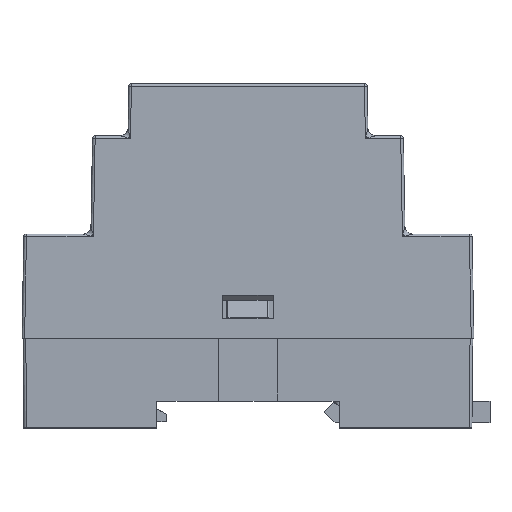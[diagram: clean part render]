
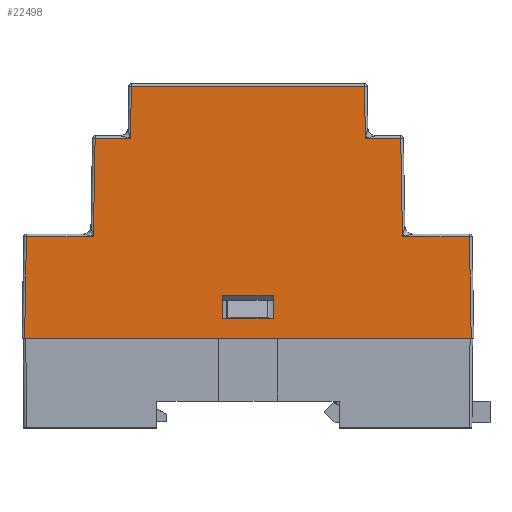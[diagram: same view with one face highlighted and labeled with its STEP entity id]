
A CAD part, top view. The second image highlights one B-rep face of the part: STEP entity #22498.
In plain terms, the highlighted planar face has unit normal (0, 0.009, 1).
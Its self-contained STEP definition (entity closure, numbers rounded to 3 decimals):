
#65 = VECTOR ( 'NONE', #22681, 1000. ) ;
#467 = CARTESIAN_POINT ( 'NONE',  ( -42.5, -0.009, 17.75 ) ) ;
#841 = CARTESIAN_POINT ( 'NONE',  ( -42.5, 0., 17.75 ) ) ;
#1006 = EDGE_CURVE ( 'NONE', #5865, #16950, #25030, .T. ) ;
#1152 = DIRECTION ( 'NONE',  ( 0., -1., 0.009 ) ) ;
#1259 = VECTOR ( 'NONE', #9467, 1000. ) ;
#1288 = LINE ( 'NONE', #5740, #65 ) ;
#1317 = CARTESIAN_POINT ( 'NONE',  ( 4.8, 8.291, 17.678 ) ) ;
#1421 = CARTESIAN_POINT ( 'NONE',  ( 29.085, 38.104, 17.417 ) ) ;
#1472 = DIRECTION ( 'NONE',  ( 0., -1., 0.009 ) ) ;
#1703 = EDGE_CURVE ( 'NONE', #25435, #16114, #9862, .T. ) ;
#1869 = ORIENTED_EDGE ( 'NONE', *, *, #9417, .T. ) ;
#2030 = CARTESIAN_POINT ( 'NONE',  ( 42.161, 19.404, 17.581 ) ) ;
#2288 = CARTESIAN_POINT ( 'NONE',  ( -4.8, 3.9, 17.716 ) ) ;
#2487 = VERTEX_POINT ( 'NONE', #1317 ) ;
#2856 = ORIENTED_EDGE ( 'NONE', *, *, #17302, .T. ) ;
#3226 = VECTOR ( 'NONE', #12596, 1000. ) ;
#3263 = ORIENTED_EDGE ( 'NONE', *, *, #7076, .T. ) ;
#3316 = LINE ( 'NONE', #18423, #6353 ) ;
#3349 = ORIENTED_EDGE ( 'NONE', *, *, #26379, .T. ) ;
#3415 = CARTESIAN_POINT ( 'NONE',  ( -43., 0., 17.75 ) ) ;
#3670 = EDGE_CURVE ( 'NONE', #16950, #25435, #15588, .T. ) ;
#3988 = DIRECTION ( 'NONE',  ( -0.017, 1., -0.009 ) ) ;
#4321 = EDGE_CURVE ( 'NONE', #20316, #18565, #3316, .T. ) ;
#5740 = CARTESIAN_POINT ( 'NONE',  ( -43., 3.9, 17.716 ) ) ;
#5828 = CARTESIAN_POINT ( 'NONE',  ( 4.8, 3.9, 17.716 ) ) ;
#5865 = VERTEX_POINT ( 'NONE', #17929 ) ;
#5867 = LINE ( 'NONE', #12040, #3226 ) ;
#5979 = VERTEX_POINT ( 'NONE', #16647 ) ;
#6040 = DIRECTION ( 'NONE',  ( 0., 1., -0.009 ) ) ;
#6276 = ORIENTED_EDGE ( 'NONE', *, *, #9392, .T. ) ;
#6330 = VECTOR ( 'NONE', #1152, 1000. ) ;
#6353 = VECTOR ( 'NONE', #27214, 1000. ) ;
#6462 = LINE ( 'NONE', #19053, #16918 ) ;
#7039 = ORIENTED_EDGE ( 'NONE', *, *, #1703, .T. ) ;
#7076 = EDGE_CURVE ( 'NONE', #25012, #5979, #5867, .T. ) ;
#7346 = FACE_OUTER_BOUND ( 'NONE', #8253, .T. ) ;
#8253 = EDGE_LOOP ( 'NONE', ( #3263, #3349, #2856, #12778, #14584, #7039, #27218, #12868, #15130, #17967, #23491, #6276 ) ) ;
#8780 = VERTEX_POINT ( 'NONE', #20343 ) ;
#8794 = LINE ( 'NONE', #24071, #24535 ) ;
#8984 = DIRECTION ( 'NONE',  ( -0.017, -1., 0.009 ) ) ;
#9087 = DIRECTION ( 'NONE',  ( -1., 0., 0. ) ) ;
#9263 = DIRECTION ( 'NONE',  ( -1., 0., 0. ) ) ;
#9392 = EDGE_CURVE ( 'NONE', #18565, #25012, #19629, .T. ) ;
#9417 = EDGE_CURVE ( 'NONE', #2487, #13323, #22421, .T. ) ;
#9467 = DIRECTION ( 'NONE',  ( -0.017, -1., 0.009 ) ) ;
#9580 = EDGE_CURVE ( 'NONE', #13323, #16553, #1288, .T. ) ;
#9862 = LINE ( 'NONE', #17873, #12758 ) ;
#10175 = ORIENTED_EDGE ( 'NONE', *, *, #9580, .T. ) ;
#10252 = DIRECTION ( 'NONE',  ( -0.017, -1., 0.009 ) ) ;
#10399 = ORIENTED_EDGE ( 'NONE', *, *, #27492, .T. ) ;
#10705 = VECTOR ( 'NONE', #21475, 1000. ) ;
#11567 = DIRECTION ( 'NONE',  ( -0.017, 1., -0.009 ) ) ;
#11789 = CARTESIAN_POINT ( 'NONE',  ( 4.8, 0., 17.75 ) ) ;
#11891 = VECTOR ( 'NONE', #20423, 1000. ) ;
#12040 = CARTESIAN_POINT ( 'NONE',  ( -43., 0., 17.75 ) ) ;
#12364 = VERTEX_POINT ( 'NONE', #27592 ) ;
#12596 = DIRECTION ( 'NONE',  ( 1., 0., 0. ) ) ;
#12758 = VECTOR ( 'NONE', #11567, 1000. ) ;
#12778 = ORIENTED_EDGE ( 'NONE', *, *, #1006, .T. ) ;
#12808 = CARTESIAN_POINT ( 'NONE',  ( -29.411, 19.404, 17.581 ) ) ;
#12868 = ORIENTED_EDGE ( 'NONE', *, *, #14386, .T. ) ;
#13323 = VERTEX_POINT ( 'NONE', #5828 ) ;
#13838 = DIRECTION ( 'NONE',  ( -1., 0., 0. ) ) ;
#14386 = EDGE_CURVE ( 'NONE', #19321, #8780, #24546, .T. ) ;
#14584 = ORIENTED_EDGE ( 'NONE', *, *, #3670, .T. ) ;
#14693 = EDGE_CURVE ( 'NONE', #16114, #19321, #22638, .T. ) ;
#15043 = LINE ( 'NONE', #23568, #10705 ) ;
#15130 = ORIENTED_EDGE ( 'NONE', *, *, #18055, .T. ) ;
#15315 = EDGE_CURVE ( 'NONE', #12364, #20316, #19831, .T. ) ;
#15501 = CARTESIAN_POINT ( 'NONE',  ( -29.754, -0.231, 17.752 ) ) ;
#15588 = LINE ( 'NONE', #22151, #26266 ) ;
#16112 = CARTESIAN_POINT ( 'NONE',  ( 29.728, 1.269, 17.739 ) ) ;
#16114 = VERTEX_POINT ( 'NONE', #20079 ) ;
#16417 = CARTESIAN_POINT ( 'NONE',  ( -23.026, -0.349, 17.753 ) ) ;
#16553 = VERTEX_POINT ( 'NONE', #2288 ) ;
#16647 = CARTESIAN_POINT ( 'NONE',  ( 42.5, 0., 17.75 ) ) ;
#16918 = VECTOR ( 'NONE', #6040, 1000. ) ;
#16950 = VERTEX_POINT ( 'NONE', #1421 ) ;
#17100 = EDGE_LOOP ( 'NONE', ( #10399, #1869, #10175, #27258 ) ) ;
#17272 = CARTESIAN_POINT ( 'NONE',  ( 42.474, 1.492, 17.737 ) ) ;
#17302 = EDGE_CURVE ( 'NONE', #26462, #5865, #8794, .T. ) ;
#17420 = LINE ( 'NONE', #17272, #18237 ) ;
#17791 = VECTOR ( 'NONE', #10252, 1000. ) ;
#17827 = VERTEX_POINT ( 'NONE', #25376 ) ;
#17873 = CARTESIAN_POINT ( 'NONE',  ( 23., 1.152, 17.74 ) ) ;
#17929 = CARTESIAN_POINT ( 'NONE',  ( 29.411, 19.404, 17.581 ) ) ;
#17967 = ORIENTED_EDGE ( 'NONE', *, *, #15315, .T. ) ;
#18055 = EDGE_CURVE ( 'NONE', #8780, #12364, #15043, .T. ) ;
#18237 = VECTOR ( 'NONE', #3988, 1000. ) ;
#18390 = DIRECTION ( 'NONE',  ( 0., 0.009, 1. ) ) ;
#18396 = VECTOR ( 'NONE', #8984, 1000. ) ;
#18423 = CARTESIAN_POINT ( 'NONE',  ( -43., 19.404, 17.581 ) ) ;
#18565 = VERTEX_POINT ( 'NONE', #23684 ) ;
#19053 = CARTESIAN_POINT ( 'NONE',  ( -4.8, 0., 17.75 ) ) ;
#19321 = VERTEX_POINT ( 'NONE', #26011 ) ;
#19621 = VECTOR ( 'NONE', #26586, 1000. ) ;
#19629 = LINE ( 'NONE', #467, #18396 ) ;
#19831 = LINE ( 'NONE', #15501, #1259 ) ;
#20079 = CARTESIAN_POINT ( 'NONE',  ( 22.182, 48.004, 17.331 ) ) ;
#20316 = VERTEX_POINT ( 'NONE', #12808 ) ;
#20343 = CARTESIAN_POINT ( 'NONE',  ( -22.355, 38.104, 17.417 ) ) ;
#20423 = DIRECTION ( 'NONE',  ( -0.017, 1., -0.009 ) ) ;
#20429 = LINE ( 'NONE', #24506, #19621 ) ;
#20628 = PLANE ( 'NONE',  #21962 ) ;
#21475 = DIRECTION ( 'NONE',  ( -1., 0., 0. ) ) ;
#21962 = AXIS2_PLACEMENT_3D ( 'NONE', #3415, #18390, #1472 ) ;
#22151 = CARTESIAN_POINT ( 'NONE',  ( -43., 38.104, 17.417 ) ) ;
#22421 = LINE ( 'NONE', #11789, #6330 ) ;
#22498 = ADVANCED_FACE ( 'NONE', ( #22589, #7346 ), #20628, .T. ) ;
#22589 = FACE_BOUND ( 'NONE', #17100, .T. ) ;
#22638 = LINE ( 'NONE', #24342, #25351 ) ;
#22681 = DIRECTION ( 'NONE',  ( -1., 0., 0. ) ) ;
#23197 = CARTESIAN_POINT ( 'NONE',  ( 22.355, 38.104, 17.417 ) ) ;
#23491 = ORIENTED_EDGE ( 'NONE', *, *, #4321, .T. ) ;
#23568 = CARTESIAN_POINT ( 'NONE',  ( -43., 38.104, 17.417 ) ) ;
#23684 = CARTESIAN_POINT ( 'NONE',  ( -42.161, 19.404, 17.581 ) ) ;
#24071 = CARTESIAN_POINT ( 'NONE',  ( -43., 19.404, 17.581 ) ) ;
#24342 = CARTESIAN_POINT ( 'NONE',  ( -22.673, 48.004, 17.331 ) ) ;
#24506 = CARTESIAN_POINT ( 'NONE',  ( -43., 8.291, 17.678 ) ) ;
#24535 = VECTOR ( 'NONE', #9087, 1000. ) ;
#24546 = LINE ( 'NONE', #16417, #17791 ) ;
#25012 = VERTEX_POINT ( 'NONE', #841 ) ;
#25030 = LINE ( 'NONE', #16112, #11891 ) ;
#25351 = VECTOR ( 'NONE', #13838, 1000. ) ;
#25376 = CARTESIAN_POINT ( 'NONE',  ( -4.8, 8.291, 17.678 ) ) ;
#25435 = VERTEX_POINT ( 'NONE', #23197 ) ;
#26011 = CARTESIAN_POINT ( 'NONE',  ( -22.182, 48.004, 17.331 ) ) ;
#26266 = VECTOR ( 'NONE', #9263, 1000. ) ;
#26379 = EDGE_CURVE ( 'NONE', #5979, #26462, #17420, .T. ) ;
#26462 = VERTEX_POINT ( 'NONE', #2030 ) ;
#26586 = DIRECTION ( 'NONE',  ( 1., 0., 0. ) ) ;
#26941 = EDGE_CURVE ( 'NONE', #16553, #17827, #6462, .T. ) ;
#27214 = DIRECTION ( 'NONE',  ( -1., 0., 0. ) ) ;
#27218 = ORIENTED_EDGE ( 'NONE', *, *, #14693, .T. ) ;
#27258 = ORIENTED_EDGE ( 'NONE', *, *, #26941, .T. ) ;
#27492 = EDGE_CURVE ( 'NONE', #17827, #2487, #20429, .T. ) ;
#27592 = CARTESIAN_POINT ( 'NONE',  ( -29.085, 38.104, 17.417 ) ) ;
